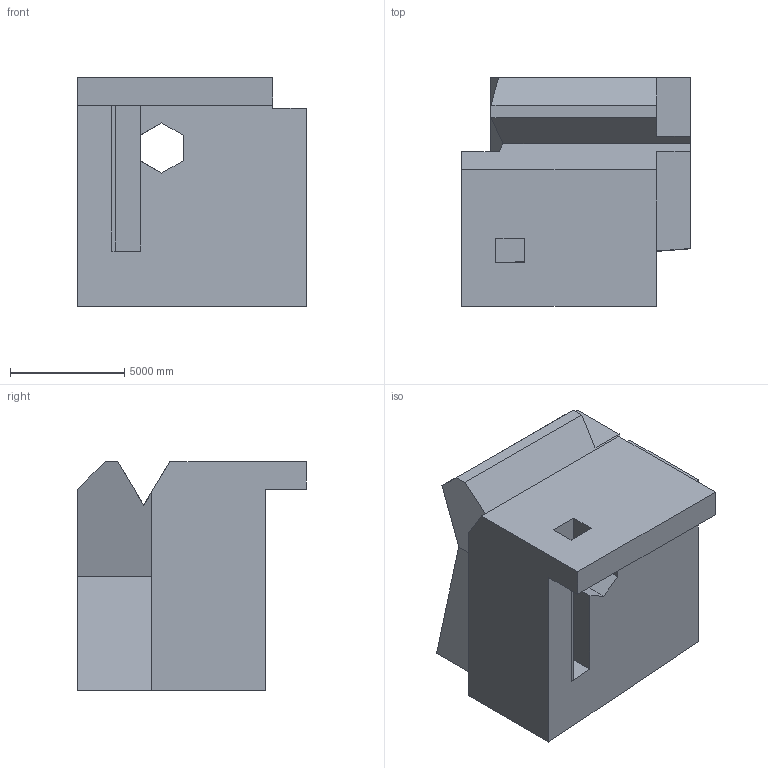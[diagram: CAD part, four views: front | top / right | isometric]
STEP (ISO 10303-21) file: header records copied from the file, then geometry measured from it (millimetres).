
FILE_DESCRIPTION (( 'STEP AP203' ), '1' );
FILE_NAME ('719.STEP', '2022-07-29T12:44:21', ( 'user' ), ( '' ), 'SwSTEP 2.0', 'SolidWorks 2021', '' );
FILE_SCHEMA (( 'CONFIG_CONTROL_DESIGN' ));
Length unit declared in the file: centimetre
Products named in the file (1): 719
Bounding box: 10000 x 10000 x 10000 mm (x, y, z)
Volume: 665002994524.2 mm3; surface area: 624160972.2 mm2
Topology: 1 solids, 1 shells, 38 faces, 111 edges, 74 vertices
Faces by surface type: plane 38
Entity records: 1320 total; most frequent: CARTESIAN_POINT 224, ORIENTED_EDGE 222, DIRECTION 189, LINE 111, VECTOR 111, EDGE_CURVE 111, VERTEX_POINT 74, EDGE_LOOP 41
